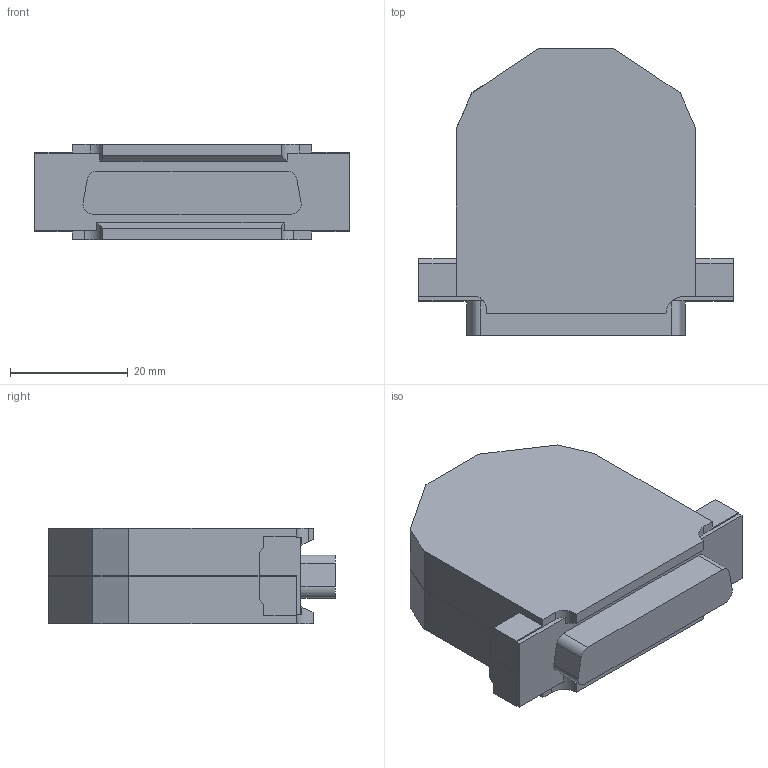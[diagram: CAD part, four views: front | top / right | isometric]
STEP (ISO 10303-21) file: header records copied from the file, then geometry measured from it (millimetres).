
FILE_DESCRIPTION((''),'2;1');
FILE_NAME('DSUB-BACKSHELL-25POS','2007-01-26T',('chrisj'),(''),'PRO/ENGINEER BY PARAMETRIC TECHNOLOGY CORPORATION, 2006080','PRO/ENGINEER BY PARAMETRIC TECHNOLOGY CORPORATION, 2006080','');
FILE_SCHEMA(('AUTOMOTIVE_DESIGN_CC2 { 1 2 10303 214 -1 1 5 2 }'));
Length unit declared in the file: inch
Products named in the file (1): DSUB-BACKSHELL-25POS
Bounding box: 53.36 x 48.64 x 16.21 mm (x, y, z)
Volume: 18226 mm3; surface area: 12865.1 mm2
Topology: 1 solids, 1 shells, 183 faces, 454 edges, 300 vertices
Faces by surface type: plane 109, cylinder 70, extrusion 4
Entity records: 5924 total; most frequent: CARTESIAN_POINT 1533, ORIENTED_EDGE 908, DIRECTION 858, EDGE_CURVE 454, VERTEX_POINT 300, VECTOR 292, LINE 288, AXIS2_PLACEMENT_3D 283
